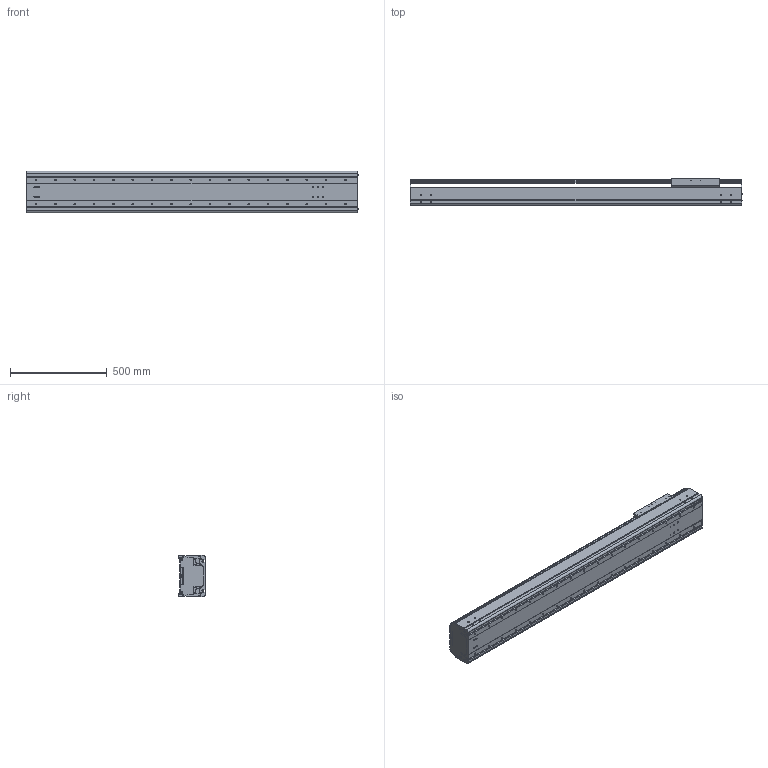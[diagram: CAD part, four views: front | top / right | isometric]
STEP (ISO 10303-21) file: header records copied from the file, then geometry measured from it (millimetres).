
FILE_DESCRIPTION((''),'2;1');
FILE_NAME('BE60G-ST-M_N-D0_IGS_PRT','2017-06-18T',(' '),(''),'PRO/ENGINEER BY PARAMETRIC TECHNOLOGY CORPORATION, 2015030','PRO/ENGINEER BY PARAMETRIC TECHNOLOGY CORPORATION, 2015030','');
FILE_SCHEMA(('CONFIG_CONTROL_DESIGN'));
Length unit declared in the file: millimetre
Products named in the file (1): BE60G-ST-M_N-D0_IGS_PRT
Bounding box: 1717.4 x 140 x 214 mm (x, y, z)
Volume: 13507877.9 mm3; surface area: 3607520.3 mm2
Topology: 2 solids, 158 shells, 1660 faces, 4656 edges, 3060 vertices
Faces by surface type: cylinder 864, plane 628, cone 120, sphere 24, torus 24
Entity records: 55674 total; most frequent: CARTESIAN_POINT 12780, DIRECTION 8996, ORIENTED_EDGE 8456, EDGE_CURVE 4536, AXIS2_PLACEMENT_3D 3367, VERTEX_POINT 3058, VECTOR 2262, LINE 2262
